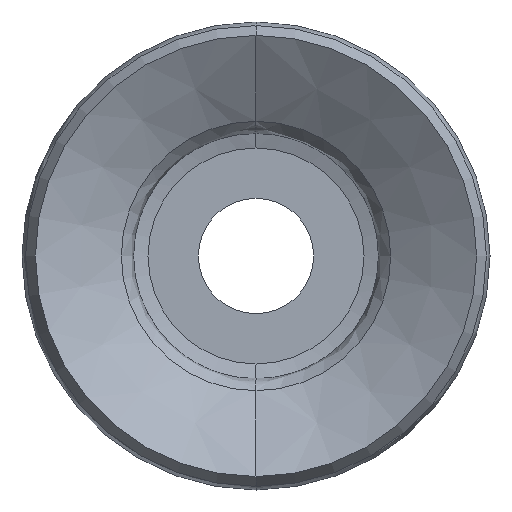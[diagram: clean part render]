
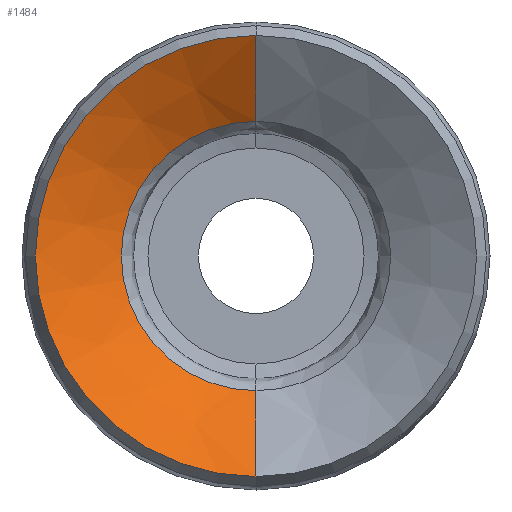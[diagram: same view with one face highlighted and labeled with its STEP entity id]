
A CAD part, front view. The second image highlights one B-rep face of the part: STEP entity #1484.
In plain terms, the highlighted conical face has half-angle 57.015 degrees and reference radius 9.354 mm.
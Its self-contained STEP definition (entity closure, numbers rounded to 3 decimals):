
#16 = EDGE_LOOP ( 'NONE', ( #1605, #137, #1428, #462 ) ) ;
#23 = CARTESIAN_POINT ( 'NONE',  ( 0., -33.628, -9.354 ) ) ;
#137 = ORIENTED_EDGE ( 'NONE', *, *, #579, .T. ) ;
#157 = DIRECTION ( 'NONE',  ( 0., -0.544, -0.839 ) ) ;
#312 = CARTESIAN_POINT ( 'NONE',  ( 0., -33.628, 9.354 ) ) ;
#384 = VECTOR ( 'NONE', #157, 1000. ) ;
#398 = FACE_OUTER_BOUND ( 'NONE', #16, .T. ) ;
#439 = VERTEX_POINT ( 'NONE', #474 ) ;
#462 = ORIENTED_EDGE ( 'NONE', *, *, #729, .F. ) ;
#474 = CARTESIAN_POINT ( 'NONE',  ( 0., -37.5, 15.319 ) ) ;
#488 = VERTEX_POINT ( 'NONE', #666 ) ;
#499 = LINE ( 'NONE', #1505, #384 ) ;
#527 = CARTESIAN_POINT ( 'NONE',  ( 0., -37.5, 0. ) ) ;
#532 = VERTEX_POINT ( 'NONE', #312 ) ;
#535 = AXIS2_PLACEMENT_3D ( 'NONE', #909, #848, #1048 ) ;
#543 = DIRECTION ( 'NONE',  ( 0., -0.544, 0.839 ) ) ;
#554 = DIRECTION ( 'NONE',  ( 0., 0., 1. ) ) ;
#564 = EDGE_CURVE ( 'NONE', #439, #488, #955, .T. ) ;
#579 = EDGE_CURVE ( 'NONE', #532, #439, #933, .T. ) ;
#588 = CARTESIAN_POINT ( 'NONE',  ( 0., -33.628, 9.354 ) ) ;
#594 = VERTEX_POINT ( 'NONE', #23 ) ;
#666 = CARTESIAN_POINT ( 'NONE',  ( 0., -37.5, -15.319 ) ) ;
#692 = DIRECTION ( 'NONE',  ( 0., 0., -1. ) ) ;
#709 = EDGE_CURVE ( 'NONE', #594, #532, #941, .T. ) ;
#729 = EDGE_CURVE ( 'NONE', #594, #488, #499, .T. ) ;
#848 = DIRECTION ( 'NONE',  ( 0., 1., 0. ) ) ;
#889 = DIRECTION ( 'NONE',  ( 0., -1., 0. ) ) ;
#909 = CARTESIAN_POINT ( 'NONE',  ( 0., -33.628, 0. ) ) ;
#933 = LINE ( 'NONE', #588, #1765 ) ;
#941 = CIRCLE ( 'NONE', #535, 9.354 ) ;
#955 = CIRCLE ( 'NONE', #1057, 15.319 ) ;
#1048 = DIRECTION ( 'NONE',  ( 0., 0., -1. ) ) ;
#1057 = AXIS2_PLACEMENT_3D ( 'NONE', #527, #1692, #554 ) ;
#1428 = ORIENTED_EDGE ( 'NONE', *, *, #564, .T. ) ;
#1484 = ADVANCED_FACE ( 'NONE', ( #398 ), #1826, .F. ) ;
#1505 = CARTESIAN_POINT ( 'NONE',  ( 0., -33.628, -9.354 ) ) ;
#1600 = AXIS2_PLACEMENT_3D ( 'NONE', #1674, #889, #692 ) ;
#1605 = ORIENTED_EDGE ( 'NONE', *, *, #709, .T. ) ;
#1674 = CARTESIAN_POINT ( 'NONE',  ( 0., -33.628, 0. ) ) ;
#1692 = DIRECTION ( 'NONE',  ( 0., -1., 0. ) ) ;
#1765 = VECTOR ( 'NONE', #543, 1000. ) ;
#1826 = CONICAL_SURFACE ( 'NONE', #1600, 9.354, 0.995 ) ;
